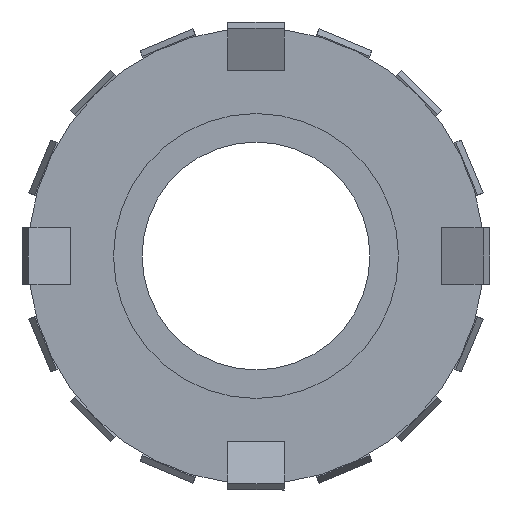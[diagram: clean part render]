
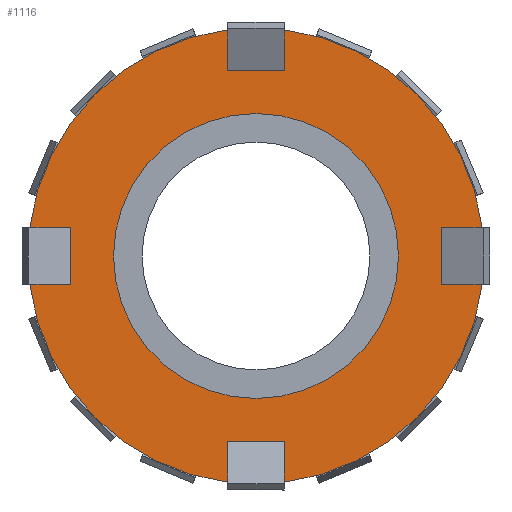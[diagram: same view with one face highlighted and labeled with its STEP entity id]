
A CAD part, left-side view. The second image highlights one B-rep face of the part: STEP entity #1116.
In plain terms, the highlighted planar face has unit normal (-1, 0, 0).
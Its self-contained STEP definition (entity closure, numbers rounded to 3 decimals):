
#994 = EDGE_CURVE ( 'NONE', #998, #996, #4416, .T. ) ;
#996 = VERTEX_POINT ( 'NONE', #4411 ) ;
#998 = VERTEX_POINT ( 'NONE', #4410 ) ;
#1031 = VERTEX_POINT ( 'NONE', #4419 ) ;
#1042 = VERTEX_POINT ( 'NONE', #4323 ) ;
#1048 = EDGE_CURVE ( 'NONE', #1031, #1042, #4314, .T. ) ;
#1062 = EDGE_CURVE ( 'NONE', #1063, #1082, #4277, .T. ) ;
#1063 = VERTEX_POINT ( 'NONE', #4272 ) ;
#1082 = VERTEX_POINT ( 'NONE', #4362 ) ;
#1103 = EDGE_CURVE ( 'NONE', #996, #998, #4474, .T. ) ;
#1106 = EDGE_CURVE ( 'NONE', #1107, #1108, #4582, .T. ) ;
#1107 = VERTEX_POINT ( 'NONE', #4532 ) ;
#1108 = VERTEX_POINT ( 'NONE', #4531 ) ;
#1110 = ORIENTED_EDGE ( 'NONE', *, *, #1103, .F. ) ;
#1111 = VERTEX_POINT ( 'NONE', #4602 ) ;
#1113 = ORIENTED_EDGE ( 'NONE', *, *, #994, .F. ) ;
#1114 = EDGE_CURVE ( 'NONE', #1239, #1237, #4638, .T. ) ;
#1115 = EDGE_LOOP ( 'NONE', ( #1110, #1113 ) ) ;
#1116 = ADVANCED_FACE ( 'NONE', ( #4634, #4633 ), #4606, .F. ) ;
#1136 = ORIENTED_EDGE ( 'NONE', *, *, #1142, .F. ) ;
#1142 = EDGE_CURVE ( 'NONE', #1237, #1154, #4643, .T. ) ;
#1147 = EDGE_CURVE ( 'NONE', #1159, #1154, #4622, .T. ) ;
#1154 = VERTEX_POINT ( 'NONE', #4497 ) ;
#1159 = VERTEX_POINT ( 'NONE', #4481 ) ;
#1182 = ORIENTED_EDGE ( 'NONE', *, *, #1147, .T. ) ;
#1211 = EDGE_CURVE ( 'NONE', #1228, #1111, #4465, .T. ) ;
#1212 = ORIENTED_EDGE ( 'NONE', *, *, #1213, .F. ) ;
#1213 = EDGE_CURVE ( 'NONE', #1214, #1216, #4461, .T. ) ;
#1214 = VERTEX_POINT ( 'NONE', #4526 ) ;
#1215 = EDGE_CURVE ( 'NONE', #1222, #1218, #4525, .T. ) ;
#1216 = VERTEX_POINT ( 'NONE', #4521 ) ;
#1217 = ORIENTED_EDGE ( 'NONE', *, *, #1062, .T. ) ;
#1218 = VERTEX_POINT ( 'NONE', #4520 ) ;
#1219 = ORIENTED_EDGE ( 'NONE', *, *, #1215, .F. ) ;
#1220 = EDGE_CURVE ( 'NONE', #1107, #1222, #4519, .T. ) ;
#1221 = ORIENTED_EDGE ( 'NONE', *, *, #1106, .T. ) ;
#1222 = VERTEX_POINT ( 'NONE', #4515 ) ;
#1223 = EDGE_CURVE ( 'NONE', #1063, #1228, #4545, .T. ) ;
#1224 = ORIENTED_EDGE ( 'NONE', *, *, #1225, .F. ) ;
#1225 = EDGE_CURVE ( 'NONE', #1216, #1108, #4541, .T. ) ;
#1226 = ORIENTED_EDGE ( 'NONE', *, *, #1227, .F. ) ;
#1227 = EDGE_CURVE ( 'NONE', #1159, #1214, #4537, .T. ) ;
#1228 = VERTEX_POINT ( 'NONE', #4533 ) ;
#1229 = ORIENTED_EDGE ( 'NONE', *, *, #1223, .F. ) ;
#1230 = ORIENTED_EDGE ( 'NONE', *, *, #1220, .F. ) ;
#1231 = ORIENTED_EDGE ( 'NONE', *, *, #1232, .F. ) ;
#1232 = EDGE_CURVE ( 'NONE', #1218, #1082, #3352, .T. ) ;
#1233 = ORIENTED_EDGE ( 'NONE', *, *, #1211, .F. ) ;
#1234 = ORIENTED_EDGE ( 'NONE', *, *, #1235, .F. ) ;
#1235 = EDGE_CURVE ( 'NONE', #1031, #1239, #4798, .T. ) ;
#1236 = ORIENTED_EDGE ( 'NONE', *, *, #1048, .T. ) ;
#1237 = VERTEX_POINT ( 'NONE', #4797 ) ;
#1238 = ORIENTED_EDGE ( 'NONE', *, *, #1114, .F. ) ;
#1239 = VERTEX_POINT ( 'NONE', #4796 ) ;
#1240 = EDGE_LOOP ( 'NONE', ( #1238, #1234, #1236, #1242, #1233, #1229, #1217, #1231, #1219, #1230, #1221, #1224, #1212, #1226, #1182, #1136 ) ) ;
#1242 = ORIENTED_EDGE ( 'NONE', *, *, #1243, .F. ) ;
#1243 = EDGE_CURVE ( 'NONE', #1111, #1042, #4822, .T. ) ;
#3351 = CARTESIAN_POINT ( 'NONE',  ( 5., -2., 15.875 ) ) ;
#3352 = LINE ( 'NONE', #3351, #3613 ) ;
#3613 = VECTOR ( 'NONE', #3881, 1000. ) ;
#3881 = DIRECTION ( 'NONE',  ( 0., 0., 1. ) ) ;
#4272 = CARTESIAN_POINT ( 'NONE',  ( 5., -15.875, 2. ) ) ;
#4273 = DIRECTION ( 'NONE',  ( 0., 0., 1. ) ) ;
#4274 = DIRECTION ( 'NONE',  ( -1., 0., 0. ) ) ;
#4275 = CARTESIAN_POINT ( 'NONE',  ( 5., 0., 0. ) ) ;
#4276 = AXIS2_PLACEMENT_3D ( 'NONE', #4275, #4274, #4273 ) ;
#4277 = CIRCLE ( 'NONE', #4276, 16. ) ;
#4305 = DIRECTION ( 'NONE',  ( 0., 0., 1. ) ) ;
#4306 = DIRECTION ( 'NONE',  ( -1., 0., 0. ) ) ;
#4307 = CARTESIAN_POINT ( 'NONE',  ( 5., 0., 0. ) ) ;
#4308 = AXIS2_PLACEMENT_3D ( 'NONE', #4307, #4306, #4305 ) ;
#4314 = CIRCLE ( 'NONE', #4308, 16. ) ;
#4323 = CARTESIAN_POINT ( 'NONE',  ( 5., -15.875, -2. ) ) ;
#4362 = CARTESIAN_POINT ( 'NONE',  ( 5., -2., 15.875 ) ) ;
#4410 = CARTESIAN_POINT ( 'NONE',  ( 5., 0., -10. ) ) ;
#4411 = CARTESIAN_POINT ( 'NONE',  ( 5., 0., 10. ) ) ;
#4412 = DIRECTION ( 'NONE',  ( 0., 0., 1. ) ) ;
#4413 = DIRECTION ( 'NONE',  ( -1., 0., 0. ) ) ;
#4414 = CARTESIAN_POINT ( 'NONE',  ( 5., 0., 0. ) ) ;
#4415 = AXIS2_PLACEMENT_3D ( 'NONE', #4414, #4413, #4412 ) ;
#4416 = CIRCLE ( 'NONE', #4415, 10. ) ;
#4419 = CARTESIAN_POINT ( 'NONE',  ( 5., -2., -15.875 ) ) ;
#4454 = DIRECTION ( 'NONE',  ( 0., 0., 1. ) ) ;
#4455 = DIRECTION ( 'NONE',  ( -1., 0., 0. ) ) ;
#4456 = CARTESIAN_POINT ( 'NONE',  ( 5., 0., 0. ) ) ;
#4457 = DIRECTION ( 'NONE',  ( 0., 0., 1. ) ) ;
#4458 = DIRECTION ( 'NONE',  ( -1., 0., 0. ) ) ;
#4459 = CARTESIAN_POINT ( 'NONE',  ( 5., 0., 0. ) ) ;
#4460 = AXIS2_PLACEMENT_3D ( 'NONE', #4459, #4458, #4457 ) ;
#4461 = LINE ( 'NONE', #4529, #4528 ) ;
#4462 = DIRECTION ( 'NONE',  ( 0., 0., -1. ) ) ;
#4463 = VECTOR ( 'NONE', #4462, 1000. ) ;
#4464 = CARTESIAN_POINT ( 'NONE',  ( 5., -13., 2. ) ) ;
#4465 = LINE ( 'NONE', #4464, #4463 ) ;
#4474 = CIRCLE ( 'NONE', #4649, 10. ) ;
#4481 = CARTESIAN_POINT ( 'NONE',  ( 5., 15.875, -2. ) ) ;
#4497 = CARTESIAN_POINT ( 'NONE',  ( 5., 2., -15.875 ) ) ;
#4515 = CARTESIAN_POINT ( 'NONE',  ( 5., 2., 13. ) ) ;
#4516 = DIRECTION ( 'NONE',  ( 0., 0., -1. ) ) ;
#4517 = VECTOR ( 'NONE', #4516, 1000. ) ;
#4518 = CARTESIAN_POINT ( 'NONE',  ( 5., 2., 15.875 ) ) ;
#4519 = LINE ( 'NONE', #4518, #4517 ) ;
#4520 = CARTESIAN_POINT ( 'NONE',  ( 5., -2., 13. ) ) ;
#4521 = CARTESIAN_POINT ( 'NONE',  ( 5., 13., 2. ) ) ;
#4522 = DIRECTION ( 'NONE',  ( 0., -1., 0. ) ) ;
#4523 = VECTOR ( 'NONE', #4522, 1000. ) ;
#4524 = CARTESIAN_POINT ( 'NONE',  ( 5., 2., 13. ) ) ;
#4525 = LINE ( 'NONE', #4524, #4523 ) ;
#4526 = CARTESIAN_POINT ( 'NONE',  ( 5., 13., -2. ) ) ;
#4527 = DIRECTION ( 'NONE',  ( 0., 0., 1. ) ) ;
#4528 = VECTOR ( 'NONE', #4527, 1000. ) ;
#4529 = CARTESIAN_POINT ( 'NONE',  ( 5., 13., -2. ) ) ;
#4531 = CARTESIAN_POINT ( 'NONE',  ( 5., 15.875, 2. ) ) ;
#4532 = CARTESIAN_POINT ( 'NONE',  ( 5., 2., 15.875 ) ) ;
#4533 = CARTESIAN_POINT ( 'NONE',  ( 5., -13., 2. ) ) ;
#4534 = DIRECTION ( 'NONE',  ( 0., -1., 0. ) ) ;
#4535 = VECTOR ( 'NONE', #4534, 1000. ) ;
#4536 = CARTESIAN_POINT ( 'NONE',  ( 5., 15.875, -2. ) ) ;
#4537 = LINE ( 'NONE', #4536, #4535 ) ;
#4538 = DIRECTION ( 'NONE',  ( 0., 1., 0. ) ) ;
#4539 = VECTOR ( 'NONE', #4538, 1000. ) ;
#4540 = CARTESIAN_POINT ( 'NONE',  ( 5., 15.875, 2. ) ) ;
#4541 = LINE ( 'NONE', #4540, #4539 ) ;
#4542 = DIRECTION ( 'NONE',  ( 0., 1., 0. ) ) ;
#4543 = VECTOR ( 'NONE', #4542, 1000. ) ;
#4544 = CARTESIAN_POINT ( 'NONE',  ( 5., -15.875, 2. ) ) ;
#4545 = LINE ( 'NONE', #4544, #4543 ) ;
#4582 = CIRCLE ( 'NONE', #4460, 16. ) ;
#4602 = CARTESIAN_POINT ( 'NONE',  ( 5., -13., -2. ) ) ;
#4603 = DIRECTION ( 'NONE',  ( 1., 0., 0. ) ) ;
#4604 = CARTESIAN_POINT ( 'NONE',  ( 5., 16., 0. ) ) ;
#4605 = AXIS2_PLACEMENT_3D ( 'NONE', #4604, #4603, #4653 ) ;
#4606 = PLANE ( 'NONE',  #4605 ) ;
#4618 = DIRECTION ( 'NONE',  ( 0., 0., 1. ) ) ;
#4619 = DIRECTION ( 'NONE',  ( -1., 0., 0. ) ) ;
#4620 = CARTESIAN_POINT ( 'NONE',  ( 5., 0., 0. ) ) ;
#4621 = AXIS2_PLACEMENT_3D ( 'NONE', #4620, #4619, #4618 ) ;
#4622 = CIRCLE ( 'NONE', #4621, 16. ) ;
#4633 = FACE_OUTER_BOUND ( 'NONE', #1240, .T. ) ;
#4634 = FACE_BOUND ( 'NONE', #1115, .T. ) ;
#4635 = DIRECTION ( 'NONE',  ( 0., 1., 0. ) ) ;
#4636 = VECTOR ( 'NONE', #4635, 1000. ) ;
#4637 = CARTESIAN_POINT ( 'NONE',  ( 5., -2., -13. ) ) ;
#4638 = LINE ( 'NONE', #4637, #4636 ) ;
#4640 = DIRECTION ( 'NONE',  ( 0., 0., -1. ) ) ;
#4641 = VECTOR ( 'NONE', #4640, 1000. ) ;
#4642 = CARTESIAN_POINT ( 'NONE',  ( 5., 2., -15.875 ) ) ;
#4643 = LINE ( 'NONE', #4642, #4641 ) ;
#4649 = AXIS2_PLACEMENT_3D ( 'NONE', #4456, #4455, #4454 ) ;
#4653 = DIRECTION ( 'NONE',  ( 0., 0., -1. ) ) ;
#4796 = CARTESIAN_POINT ( 'NONE',  ( 5., -2., -13. ) ) ;
#4797 = CARTESIAN_POINT ( 'NONE',  ( 5., 2., -13. ) ) ;
#4798 = LINE ( 'NONE', #4799, #4801 ) ;
#4799 = CARTESIAN_POINT ( 'NONE',  ( 5., -2., -15.875 ) ) ;
#4800 = DIRECTION ( 'NONE',  ( 0., 0., 1. ) ) ;
#4801 = VECTOR ( 'NONE', #4800, 1000. ) ;
#4819 = DIRECTION ( 'NONE',  ( 0., -1., 0. ) ) ;
#4820 = VECTOR ( 'NONE', #4819, 1000. ) ;
#4821 = CARTESIAN_POINT ( 'NONE',  ( 5., -15.875, -2. ) ) ;
#4822 = LINE ( 'NONE', #4821, #4820 ) ;
